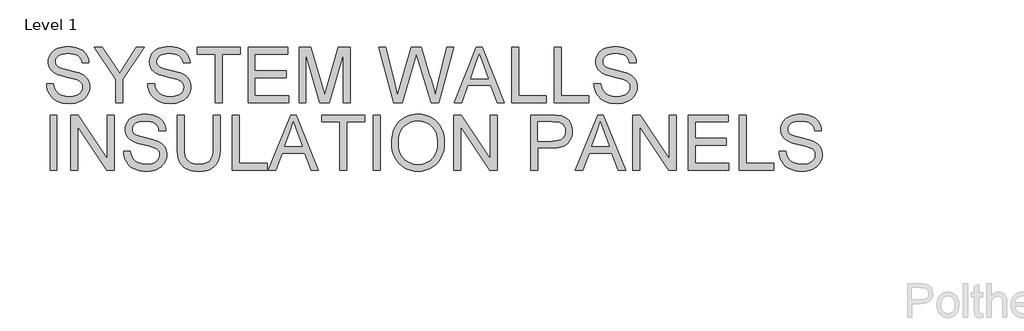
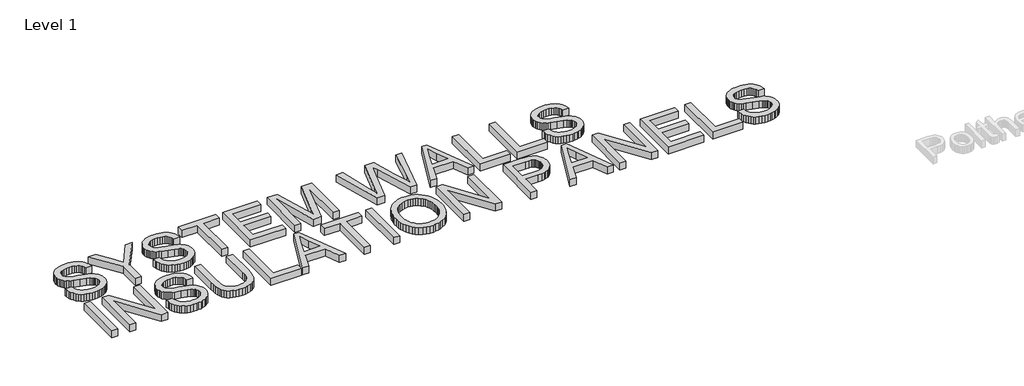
# One storey, part 8 of 27: 1 proxy.
"""IFC4 building model written with IfcOpenShell, lengths in millimetres."""

from ifc_helpers import new_model, si_unit, origin, origin_with_axes, place, context, project, spatial, polyline, outline, extrude, element, save

model = new_model("IFC4")

# Units and contexts
model_context = context("Model", 3, world=origin())
ifc_project = project(units=[si_unit("LENGTHUNIT", "METRE", prefix="MILLI")], contexts=[model_context])

# Site, building, storey
site = spatial("IfcSite", under=ifc_project)
building = spatial("IfcBuilding", under=site)
storey = spatial("IfcBuildingStorey", under=building, Name="Level 1", Elevation=0.0)

# Proxy
placement = place(None, origin())
element("IfcBuildingElementProxy", 1, Name="1000mm Arial", ObjectType="1000mm Arial", at=placement, inside=storey, context=model_context, shape_type="SweptSolid", body=[
    extrude(outline(polyline([(-28966.287185, -26863.7984456), (-28843.8629426, -26863.7984456), (-28838.2588055, -26899.4332852), (-28829.815239, -26931.7355313), (-28818.532243, -26960.7051839), (-28804.4098176, -26986.3422429), (-28786.7306331, -27009.1622891), (-28764.7773602, -27029.680903), (-28738.5499987, -27047.8980845), (-28708.0485486, -27063.8138338), (-28674.3938374, -27076.7332378), (-28638.7066926, -27085.9613836), (-28600.987114, -27091.498271), (-28561.2351016, -27093.3439001), (-28493.0290174, -27087.7547074), (-28462.1091251, -27080.7682165), (-28433.3113327, -27070.9871293), (-28407.3454976, -27058.7626383), (-28384.9214771, -27044.4459361), (-28366.0392713, -27028.0370228), (-28350.6988801, -27009.5358982), (-28338.8255816, -26989.7420861), (-28330.3446542, -26969.4551099), (-28325.2560977, -26948.6749696), (-28323.5599123, -26927.4016653), (-28328.6409965, -26886.424215), (-28343.8842494, -26851.0060687), (-28356.706515, -26835.2920683), (-28374.8489748, -26820.7885616), (-28398.3116286, -26807.4955484), (-28427.0944766, -26795.4130289), (-28491.7438019, -26776.1945748), (-28605.3508687, -26748.6670535), (-28722.3652508, -26717.7322169), (-28765.0687753, -26702.8252123), (-28797.2365221, -26688.2918168), (-28829.9273217, -26668.7894198), (-28858.1796447, -26647.1051454), (-28881.9934912, -26623.2389936), (-28901.3688611, -26597.1909645), (-28916.3804763, -26569.2300566), (-28927.1030586, -26539.6252685), (-28933.5366079, -26508.3766002), (-28935.6811244, -26475.4840516), (-28933.0284995, -26439.0272719), (-28925.0706248, -26403.7809858), (-28911.8075004, -26369.7451933), (-28893.2391263, -26336.9198944), (-28869.5747235, -26306.6426099), (-28841.0235131, -26280.2508604), (-28807.5854952, -26257.7446459), (-28769.2606698, -26239.1239664), (-28727.3417245, -26224.5307935), (-28683.1213469, -26214.1070985), (-28636.599537, -26207.8528815), (-28587.7762948, -26205.7681426), (-28534.5145761, -26207.9500199), (-28484.4808403, -26214.495652), (-28437.6750874, -26225.4050389), (-28394.0973176, -26240.6781804), (-28354.5545264, -26260.1805774), (-28319.8537096, -26283.7777306), (-28289.9948673, -26311.4696399), (-28264.9779994, -26343.2563054), (-28244.9973827, -26378.2111764), (-28230.2472939, -26415.4077022), (-28220.727733, -26454.8458828), (-28216.4387001, -26496.5257183), (-28338.8629426, -26496.5257183), (-28347.0524549, -26457.4611468), (-28361.3392683, -26423.4776596), (-28381.7233829, -26394.5752567), (-28408.2047986, -26370.753938), (-28441.2766795, -26352.1332586), (-28481.4321897, -26338.8327732), (-28528.6713292, -26330.852482), (-28582.9940979, -26328.192385), (-28639.050413, -26330.8225933), (-28686.9471045, -26338.7132183), (-28726.6841724, -26351.86426), (-28758.2616168, -26370.2757183), (-28782.3220453, -26392.4083237), (-28799.5080657, -26416.7228064), (-28809.8196779, -26443.2191665), (-28813.256882, -26471.8974039), (-28810.8209504, -26496.5705514), (-28803.5131556, -26518.9422666), (-28791.3334977, -26539.0125495), (-28774.2819766, -26556.7814001), (-28747.4418962, -26573.6087557), (-28705.1792304, -26590.6154437), (-28647.4939795, -26607.801464), (-28574.3861433, -26625.1668168), (-28439.4086338, -26657.9846435), (-28391.9154402, -26672.8243985), (-28357.7526206, -26686.6180479), (-28320.2198466, -26707.5252152), (-28287.9624336, -26731.0327022), (-28260.9803816, -26757.1405088), (-28239.2736907, -26785.848635), (-28222.5883065, -26817.0076371), (-28210.670175, -26850.4680715), (-28203.5192961, -26886.2299382), (-28201.1356698, -26924.2932372), (-28203.8779609, -26962.5881739), (-28212.1048341, -26999.7622832), (-28225.8162895, -27035.815565), (-28245.012327, -27070.7480194), (-28269.3566985, -27103.2071814), (-28298.5131556, -27131.8405857), (-28332.4816985, -27156.6482325), (-28371.262327, -27177.6301217), (-28413.7267417, -27194.3155058), (-28458.7466428, -27206.2336373), (-28506.3220305, -27213.3845162), (-28556.4529047, -27215.7681426), (-28619.0772684, -27213.1977117), (-28676.3963824, -27205.4864191), (-28728.4102467, -27192.6342647), (-28775.1188611, -27174.6412486), (-28816.8061688, -27151.477482), (-28853.7561125, -27123.1130763), (-28885.9686924, -27089.5480313), (-28913.4439085, -27050.7823471), (-28935.5765138, -27008.0713504), (-28951.7612617, -26962.6703679), (-28961.9981521, -26914.5793997), (-28966.287185, -26863.7984456)])), origin_with_axes(), (0.0, 0.0, 1.0), 150.0),
    extrude(outline(polyline([(-27742.0447607, -27200.4651122), (-27742.0447607, -26785.6095251), (-28124.6205183, -26221.0711729), (-27980.1981698, -26221.0711729), (-27775.9983592, -26522.5886918), (-27671.5073554, -26676.3363244), (-27566.7772418, -26511.5896388), (-27381.4671092, -26221.0711729), (-27237.0447607, -26221.0711729), (-27619.6205183, -26785.6095251), (-27619.6205183, -27200.4651122), (-27742.0447607, -27200.4651122)])), origin_with_axes(), (0.0, 0.0, 1.0), 150.0),
    extrude(outline(polyline([(-27175.8326395, -26863.7984456), (-27053.4083971, -26863.7984456), (-27047.80426, -26899.4332852), (-27039.3606935, -26931.7355313), (-27028.0776975, -26960.7051839), (-27013.9552721, -26986.3422429), (-26996.2760877, -27009.1622891), (-26974.3228147, -27029.680903), (-26948.0954532, -27047.8980845), (-26917.5940032, -27063.8138338), (-26883.939292, -27076.7332378), (-26848.2521471, -27085.9613836), (-26810.5325685, -27091.498271), (-26770.7805562, -27093.3439001), (-26702.5744719, -27087.7547074), (-26671.6545796, -27080.7682165), (-26642.8567873, -27070.9871293), (-26616.8909521, -27058.7626383), (-26594.4669317, -27044.4459361), (-26575.5847258, -27028.0370228), (-26560.2443346, -27009.5358982), (-26548.3710362, -26989.7420861), (-26539.8901088, -26969.4551099), (-26534.8015523, -26948.6749696), (-26533.1053668, -26927.4016653), (-26538.1864511, -26886.424215), (-26553.4297039, -26851.0060687), (-26566.2519695, -26835.2920683), (-26584.3944293, -26820.7885616), (-26607.8570832, -26807.4955484), (-26636.6399312, -26795.4130289), (-26701.2892565, -26776.1945748), (-26814.8963232, -26748.6670535), (-26931.9107053, -26717.7322169), (-26974.6142298, -26702.8252123), (-27006.7819766, -26688.2918168), (-27039.4727762, -26668.7894198), (-27067.7250993, -26647.1051454), (-27091.5389458, -26623.2389936), (-27110.9143157, -26597.1909645), (-27125.9259308, -26569.2300566), (-27136.6485131, -26539.6252685), (-27143.0820625, -26508.3766002), (-27145.2265789, -26475.4840516), (-27142.573954, -26439.0272719), (-27134.6160794, -26403.7809858), (-27121.352955, -26369.7451933), (-27102.7845808, -26336.9198944), (-27079.120178, -26306.6426099), (-27050.5689677, -26280.2508604), (-27017.1309498, -26257.7446459), (-26978.8061244, -26239.1239664), (-26936.8871791, -26224.5307935), (-26892.6668015, -26214.1070985), (-26846.1449916, -26207.8528815), (-26797.3217494, -26205.7681426), (-26744.0600306, -26207.9500199), (-26694.0262948, -26214.495652), (-26647.220542, -26225.4050389), (-26603.6427721, -26240.6781804), (-26564.0999809, -26260.1805774), (-26529.3991641, -26283.7777306), (-26499.5403218, -26311.4696399), (-26474.5234539, -26343.2563054), (-26454.5428372, -26378.2111764), (-26439.7927484, -26415.4077022), (-26430.2731876, -26454.8458828), (-26425.9841547, -26496.5257183), (-26548.4083971, -26496.5257183), (-26556.5979094, -26457.4611468), (-26570.8847229, -26423.4776596), (-26591.2688374, -26394.5752567), (-26617.7502532, -26370.753938), (-26650.8221341, -26352.1332586), (-26690.9776443, -26338.8327732), (-26738.2167837, -26330.852482), (-26792.5395524, -26328.192385), (-26848.5958675, -26330.8225933), (-26896.492559, -26338.7132183), (-26936.229627, -26351.86426), (-26967.8070713, -26370.2757183), (-26991.8674998, -26392.4083237), (-27009.0535202, -26416.7228064), (-27019.3651324, -26443.2191665), (-27022.8023365, -26471.8974039), (-27020.3664049, -26496.5705514), (-27013.0586102, -26518.9422666), (-27000.8789523, -26539.0125495), (-26983.8274312, -26556.7814001), (-26956.9873507, -26573.6087557), (-26914.724685, -26590.6154437), (-26857.039434, -26607.801464), (-26783.9315979, -26625.1668168), (-26648.9540884, -26657.9846435), (-26601.4608947, -26672.8243985), (-26567.2980751, -26686.6180479), (-26529.7653011, -26707.5252152), (-26497.5078881, -26731.0327022), (-26470.5258361, -26757.1405088), (-26448.8191452, -26785.848635), (-26432.1337611, -26817.0076371), (-26420.2156296, -26850.4680715), (-26413.0647507, -26886.2299382), (-26410.6811244, -26924.2932372), (-26413.4234155, -26962.5881739), (-26421.6502887, -26999.7622832), (-26435.361744, -27035.815565), (-26454.5577816, -27070.7480194), (-26478.902153, -27103.2071814), (-26508.0586102, -27131.8405857), (-26542.027153, -27156.6482325), (-26580.8077816, -27177.6301217), (-26623.2721962, -27194.3155058), (-26668.2920974, -27206.2336373), (-26715.8674851, -27213.3845162), (-26765.9983592, -27215.7681426), (-26828.622723, -27213.1977117), (-26885.941837, -27205.4864191), (-26937.9557012, -27192.6342647), (-26984.6643157, -27174.6412486), (-27026.3516233, -27151.477482), (-27063.3015671, -27123.1130763), (-27095.514147, -27089.5480313), (-27122.989363, -27050.7823471), (-27145.1219684, -27008.0713504), (-27161.3067162, -26962.6703679), (-27171.5436066, -26914.5793997), (-27175.8326395, -26863.7984456)])), origin_with_axes(), (0.0, 0.0, 1.0), 150.0),
    extrude(outline(polyline([(-25982.1962759, -27200.4651122), (-25982.1962759, -26343.4954153), (-26303.5599123, -26343.4954153), (-26303.5599123, -26221.0711729), (-25538.4083971, -26221.0711729), (-25538.4083971, -26343.4954153), (-25859.7720335, -26343.4954153), (-25859.7720335, -27200.4651122), (-25982.1962759, -27200.4651122)])), origin_with_axes(), (0.0, 0.0, 1.0), 150.0),
    extrude(outline(polyline([(-25400.6811244, -27200.4651122), (-25400.6811244, -26221.0711729), (-24696.7417304, -26221.0711729), (-24696.7417304, -26343.4954153), (-25278.256882, -26343.4954153), (-25278.256882, -26634.252991), (-24727.347791, -26634.252991), (-24727.347791, -26756.6772335), (-25278.256882, -26756.6772335), (-25278.256882, -27078.0408698), (-24681.4387001, -27078.0408698), (-24681.4387001, -27200.4651122), (-25400.6811244, -27200.4651122)])), origin_with_axes(), (0.0, 0.0, 1.0), 150.0),
    extrude(outline(polyline([(-24497.8023365, -27200.4651122), (-24497.8023365, -26221.0711729), (-24287.14656, -26221.0711729), (-24086.772507, -26911.3813054), (-24046.3629426, -27055.5645441), (-24002.6058403, -26899.425813), (-23805.5793251, -26221.0711729), (-23594.9235486, -26221.0711729), (-23594.9235486, -27200.4651122), (-23717.347791, -27200.4651122), (-23717.347791, -26343.4954153), (-23963.3918251, -27200.4651122), (-24129.33406, -27200.4651122), (-24375.3780941, -26343.4954153), (-24375.3780941, -27200.4651122), (-24497.8023365, -27200.4651122)])), origin_with_axes(), (0.0, 0.0, 1.0), 150.0),
    extrude(outline(polyline([(-22822.8378479, -27200.4651122), (-23089.9235486, -26221.0711729), (-22963.6735486, -26221.0711729), (-22808.7303668, -26864.754885), (-22760.9083971, -27063.4551691), (-22709.7388895, -26887.7094304), (-22515.5816926, -26221.0711729), (-22333.6190979, -26221.0711729), (-22192.5442873, -26704.3121766), (-22160.3391795, -26793.9185924), (-22132.1092731, -26883.644563), (-22107.8545678, -26973.4900886), (-22087.5750638, -27063.4551691), (-22041.1877532, -26870.4935213), (-21884.8099123, -26221.0711729), (-21758.5599123, -26221.0711729), (-22025.8847229, -27200.4651122), (-22156.67781, -27200.4651122), (-22391.4836812, -26444.877991), (-22424.2417304, -26339.4305479), (-22461.0646471, -26466.3978774), (-22675.0679615, -27200.4651122), (-22822.8378479, -27200.4651122)])), origin_with_axes(), (0.0, 0.0, 1.0), 150.0),
    extrude(outline(polyline([(-21750.1910676, -27200.4651122), (-21359.2464653, -26221.0711729), (-21254.9945713, -26221.0711729), (-20864.0499691, -27200.4651122), (-20993.4083971, -27200.4651122), (-21105.550916, -26894.4045062), (-21508.9292304, -26894.4045062), (-21620.8326395, -27200.4651122), (-21750.1910676, -27200.4651122)]), holes=[polyline([(-21463.9765789, -26771.9802638), (-21150.2644577, -26771.9802638), (-21238.4959918, -26531.1966463), (-21307.1205183, -26343.4954153), (-21368.0935297, -26510.1549797), (-21463.9765789, -26771.9802638)])]), origin_with_axes(), (0.0, 0.0, 1.0), 150.0),
    extrude(outline(polyline([(-20733.256882, -27200.4651122), (-20733.256882, -26221.0711729), (-20610.8326395, -26221.0711729), (-20610.8326395, -27078.0408698), (-20121.1356698, -27078.0408698), (-20121.1356698, -27200.4651122), (-20733.256882, -27200.4651122)])), origin_with_axes(), (0.0, 0.0, 1.0), 150.0),
    extrude(outline(polyline([(-19983.4083971, -27200.4651122), (-19983.4083971, -26221.0711729), (-19860.9841547, -26221.0711729), (-19860.9841547, -27078.0408698), (-19371.287185, -27078.0408698), (-19371.287185, -27200.4651122), (-19983.4083971, -27200.4651122)])), origin_with_axes(), (0.0, 0.0, 1.0), 150.0),
    extrude(outline(polyline([(-19279.4690032, -26863.7984456), (-19157.0447607, -26863.7984456), (-19151.4406237, -26899.4332852), (-19142.9970571, -26931.7355313), (-19131.7140612, -26960.7051839), (-19117.5916357, -26986.3422429), (-19099.9124513, -27009.1622891), (-19077.9591784, -27029.680903), (-19051.7318168, -27047.8980845), (-19021.2303668, -27063.8138338), (-18987.5756556, -27076.7332378), (-18951.8885107, -27085.9613836), (-18914.1689321, -27091.498271), (-18874.4169198, -27093.3439001), (-18806.2108356, -27087.7547074), (-18775.2909433, -27080.7682165), (-18746.4931509, -27070.9871293), (-18720.5273158, -27058.7626383), (-18698.1032953, -27044.4459361), (-18679.2210895, -27028.0370228), (-18663.8806982, -27009.5358982), (-18652.0073998, -26989.7420861), (-18643.5264724, -26969.4551099), (-18638.4379159, -26948.6749696), (-18636.7417304, -26927.4016653), (-18641.8228147, -26886.424215), (-18657.0660676, -26851.0060687), (-18669.8883332, -26835.2920683), (-18688.0307929, -26820.7885616), (-18711.4934468, -26807.4955484), (-18740.2762948, -26795.4130289), (-18804.9256201, -26776.1945748), (-18918.5326869, -26748.6670535), (-19035.547069, -26717.7322169), (-19078.2505935, -26702.8252123), (-19110.4183403, -26688.2918168), (-19143.1091399, -26668.7894198), (-19171.3614629, -26647.1051454), (-19195.1753094, -26623.2389936), (-19214.5506793, -26597.1909645), (-19229.5622945, -26569.2300566), (-19240.2848767, -26539.6252685), (-19246.7184261, -26508.3766002), (-19248.8629426, -26475.4840516), (-19246.2103177, -26439.0272719), (-19238.252443, -26403.7809858), (-19224.9893186, -26369.7451933), (-19206.4209445, -26336.9198944), (-19182.7565416, -26306.6426099), (-19154.2053313, -26280.2508604), (-19120.7673134, -26257.7446459), (-19082.442488, -26239.1239664), (-19040.5235427, -26224.5307935), (-18996.3031651, -26214.1070985), (-18949.7813552, -26207.8528815), (-18900.958113, -26205.7681426), (-18847.6963943, -26207.9500199), (-18797.6626585, -26214.495652), (-18750.8569056, -26225.4050389), (-18707.2791357, -26240.6781804), (-18667.7363445, -26260.1805774), (-18633.0355278, -26283.7777306), (-18603.1766855, -26311.4696399), (-18578.1598176, -26343.2563054), (-18558.1792008, -26378.2111764), (-18543.4291121, -26415.4077022), (-18533.9095512, -26454.8458828), (-18529.6205183, -26496.5257183), (-18652.0447607, -26496.5257183), (-18660.2342731, -26457.4611468), (-18674.5210865, -26423.4776596), (-18694.9052011, -26394.5752567), (-18721.3866168, -26370.753938), (-18754.4584977, -26352.1332586), (-18794.6140079, -26338.8327732), (-18841.8531473, -26330.852482), (-18896.175916, -26328.192385), (-18952.2322311, -26330.8225933), (-19000.1289227, -26338.7132183), (-19039.8659906, -26351.86426), (-19071.443435, -26370.2757183), (-19095.5038635, -26392.4083237), (-19112.6898838, -26416.7228064), (-19123.0014961, -26443.2191665), (-19126.4387001, -26471.8974039), (-19124.0027686, -26496.5705514), (-19116.6949738, -26518.9422666), (-19104.5153159, -26539.0125495), (-19087.4637948, -26556.7814001), (-19060.6237143, -26573.6087557), (-19018.3610486, -26590.6154437), (-18960.6757977, -26607.801464), (-18887.5679615, -26625.1668168), (-18752.590452, -26657.9846435), (-18705.0972584, -26672.8243985), (-18670.9344388, -26686.6180479), (-18633.4016647, -26707.5252152), (-18601.1442517, -26731.0327022), (-18574.1621998, -26757.1405088), (-18552.4555088, -26785.848635), (-18535.7701247, -26817.0076371), (-18523.8519932, -26850.4680715), (-18516.7011143, -26886.2299382), (-18514.317488, -26924.2932372), (-18517.0597791, -26962.5881739), (-18525.2866523, -26999.7622832), (-18538.9981077, -27035.815565), (-18558.1941452, -27070.7480194), (-18582.5385167, -27103.2071814), (-18611.6949738, -27131.8405857), (-18645.6635167, -27156.6482325), (-18684.4441452, -27177.6301217), (-18726.9085599, -27194.3155058), (-18771.928461, -27206.2336373), (-18819.5038487, -27213.3845162), (-18869.6347229, -27215.7681426), (-18932.2590866, -27213.1977117), (-18989.5782006, -27205.4864191), (-19041.5920648, -27192.6342647), (-19088.3006793, -27174.6412486), (-19129.9879869, -27151.477482), (-19166.9379307, -27123.1130763), (-19199.1505106, -27089.5480313), (-19226.6257266, -27050.7823471), (-19248.758332, -27008.0713504), (-19264.9430799, -26962.6703679), (-19275.1799703, -26914.5793997), (-19279.4690032, -26863.7984456)])), origin_with_axes(), (0.0, 0.0, 1.0), 150.0),
    extrude(outline(polyline([(-28905.0750638, -28397.4348092), (-28905.0750638, -27418.0408698), (-28782.6508213, -27418.0408698), (-28782.6508213, -28397.4348092), (-28905.0750638, -28397.4348092)])), origin_with_axes(), (0.0, 0.0, 1.0), 150.0),
    extrude(outline(polyline([(-28537.8023365, -28397.4348092), (-28537.8023365, -27418.0408698), (-28406.7701395, -27418.0408698), (-27895.0750638, -28193.9523282), (-27895.0750638, -27418.0408698), (-27772.6508213, -27418.0408698), (-27772.6508213, -28397.4348092), (-27903.6830183, -28397.4348092), (-28415.3780941, -27621.284241), (-28415.3780941, -28397.4348092), (-28537.8023365, -28397.4348092)])), origin_with_axes(), (0.0, 0.0, 1.0), 150.0),
    extrude(outline(polyline([(-27604.317488, -28060.7681426), (-27481.8932456, -28060.7681426), (-27476.2891085, -28096.4029822), (-27467.845542, -28128.7052283), (-27456.562546, -28157.6748808), (-27442.4401206, -28183.3119399), (-27424.7609362, -28206.1319861), (-27402.8076632, -28226.6505999), (-27376.5803017, -28244.8677815), (-27346.0788516, -28260.7835308), (-27312.4241405, -28273.7029348), (-27276.7369956, -28282.9310805), (-27239.017417, -28288.467968), (-27199.2654047, -28290.3135971), (-27131.0593204, -28284.7244044), (-27100.1394281, -28277.7379135), (-27071.3416357, -28267.9568263), (-27045.3758006, -28255.7323353), (-27022.9517802, -28241.4156331), (-27004.0695743, -28225.0067197), (-26988.7291831, -28206.5055952), (-26976.8558847, -28186.7117831), (-26968.3749572, -28166.4248069), (-26963.2864008, -28145.6446666), (-26961.5902153, -28124.3713622), (-26966.6712996, -28083.393912), (-26981.9145524, -28047.9757657), (-26994.736818, -28032.2617653), (-27012.8792778, -28017.7582586), (-27036.3419317, -28004.4652454), (-27065.1247797, -27992.3827259), (-27129.774105, -27973.1642718), (-27243.3811717, -27945.6367505), (-27360.3955538, -27914.7019139), (-27403.0990783, -27899.7949092), (-27435.2668251, -27885.2615138), (-27467.9576247, -27865.7591167), (-27496.2099478, -27844.0748424), (-27520.0237942, -27820.2086906), (-27539.3991641, -27794.1606615), (-27554.4107793, -27766.1997536), (-27565.1333616, -27736.5949655), (-27571.566911, -27705.3462971), (-27573.7114274, -27672.4537486), (-27571.0588025, -27635.9969689), (-27563.1009279, -27600.7506828), (-27549.8378035, -27566.7148903), (-27531.2694293, -27533.8895914), (-27507.6050265, -27503.6123069), (-27479.0538161, -27477.2205573), (-27445.6157983, -27454.7143428), (-27407.2909729, -27436.0936634), (-27365.3720275, -27421.5004904), (-27321.1516499, -27411.0767955), (-27274.62984, -27404.8225785), (-27225.8065979, -27402.7378395), (-27172.5448791, -27404.9197169), (-27122.5111433, -27411.465349), (-27075.7053905, -27422.3747358), (-27032.1276206, -27437.6478774), (-26992.5848294, -27457.1502744), (-26957.8840126, -27480.7474276), (-26928.0251703, -27508.4393369), (-26903.0083024, -27540.2260024), (-26883.0276857, -27575.1808734), (-26868.2775969, -27612.3773992), (-26858.7580361, -27651.8155798), (-26854.4690032, -27693.4954153), (-26976.8932456, -27693.4954153), (-26985.0827579, -27654.4308438), (-26999.3695713, -27620.4473566), (-27019.7536859, -27591.5449536), (-27046.2351016, -27567.723635), (-27079.3069826, -27549.1029555), (-27119.4624927, -27535.8024702), (-27166.7016322, -27527.822179), (-27221.0244009, -27525.1620819), (-27277.080716, -27527.7922903), (-27324.9774075, -27535.6829153), (-27364.7144755, -27548.8339569), (-27396.2919198, -27567.2454153), (-27420.3523483, -27589.3780206), (-27437.5383687, -27613.6925033), (-27447.8499809, -27640.1888634), (-27451.287185, -27668.8671009), (-27448.8512534, -27693.5402484), (-27441.5434587, -27715.9119636), (-27429.3638007, -27735.9822465), (-27412.3122797, -27753.7510971), (-27385.4721992, -27770.5784527), (-27343.2095335, -27787.5851407), (-27285.5242825, -27804.771161), (-27212.4164463, -27822.1365138), (-27077.4389369, -27854.9543405), (-27029.9457432, -27869.7940954), (-26995.7829236, -27883.5877448), (-26958.2501496, -27904.4949122), (-26925.9927366, -27928.0023992), (-26899.0106846, -27954.1102058), (-26877.3039937, -27982.8183319), (-26860.6186096, -28013.9773341), (-26848.7004781, -28047.4377685), (-26841.5495992, -28083.1996352), (-26839.1659729, -28121.2629342), (-26841.9082639, -28159.5578709), (-26850.1351372, -28196.7319801), (-26863.8465925, -28232.785262), (-26883.0426301, -28267.7177164), (-26907.3870015, -28300.1768783), (-26936.5434587, -28328.8102827), (-26970.5120015, -28353.6179295), (-27009.2926301, -28374.5998187), (-27051.7570447, -28391.2852028), (-27096.7769459, -28403.2033343), (-27144.3523335, -28410.3542132), (-27194.4832077, -28412.7378395), (-27257.1075715, -28410.1674086), (-27314.4266855, -28402.456116), (-27366.4405497, -28389.6039617), (-27413.1491641, -28371.6109456), (-27454.8364718, -28348.447179), (-27491.7864156, -28320.0827732), (-27523.9989955, -28286.5177283), (-27551.4742115, -28247.7520441), (-27573.6068168, -28205.0410474), (-27589.7915647, -28159.6400649), (-27600.0284551, -28111.5490966), (-27604.317488, -28060.7681426)])), origin_with_axes(), (0.0, 0.0, 1.0), 150.0),
    extrude(outline(polyline([(-26012.8023365, -27418.0408698), (-25890.3780941, -27418.0408698), (-25890.3780941, -27983.0574418), (-25892.4553609, -28053.019489), (-25898.6871613, -28115.3748542), (-25909.0734954, -28170.1235373), (-25923.614363, -28217.2655384), (-25943.565091, -28258.5867091), (-25970.181006, -28295.8729011), (-26003.462108, -28329.1241144), (-26043.4083971, -28358.340349), (-26090.0647063, -28382.1392511), (-26143.4758687, -28399.1384669), (-26203.6418843, -28409.3379964), (-26270.5627532, -28412.7378395), (-26335.8322696, -28409.7788551), (-26394.8699856, -28400.901902), (-26447.6759012, -28386.1069801), (-26494.2500164, -28365.3940895), (-26534.5998034, -28339.0695896), (-26568.7327342, -28307.43984), (-26596.648809, -28270.5048406), (-26618.3480278, -28228.2645914), (-26634.6149697, -28179.269489), (-26646.2342139, -28122.06993), (-26653.2057604, -28056.6659142), (-26655.5296092, -27983.0574418), (-26655.5296092, -27418.0408698), (-26533.1053668, -27418.0408698), (-26533.1053668, -27978.7534645), (-26531.5959859, -28037.9406242), (-26527.0678431, -28088.7738836), (-26519.5209385, -28131.2532426), (-26508.9552721, -28165.3787013), (-26494.7132918, -28193.6160799), (-26476.1374454, -28218.4311989), (-26453.227733, -28239.8240582), (-26425.9841547, -28257.7946577), (-26394.9297631, -28272.0216937), (-26360.5876111, -28282.1838622), (-26322.9576987, -28288.2811634), (-26282.0400259, -28290.3135971), (-26214.5662155, -28286.2935628), (-26157.5235723, -28274.2334598), (-26110.9120962, -28254.1332881), (-26091.5180458, -28241.0681766), (-26074.7317873, -28225.9930479), (-26060.2170722, -28208.0598092), (-26047.6376525, -28186.4203679), (-26028.2846992, -28132.0228774), (-26016.6729272, -28062.8005763), (-26012.8023365, -27978.7534645), (-26012.8023365, -27418.0408698)])), origin_with_axes(), (0.0, 0.0, 1.0), 150.0),
    extrude(outline(polyline([(-25676.1356698, -28397.4348092), (-25676.1356698, -27418.0408698), (-25553.7114274, -27418.0408698), (-25553.7114274, -28275.0105668), (-25064.0144577, -28275.0105668), (-25064.0144577, -28397.4348092), (-25676.1356698, -28397.4348092)])), origin_with_axes(), (0.0, 0.0, 1.0), 150.0),
    extrude(outline(polyline([(-25040.3425827, -28397.4348092), (-24649.3979804, -27418.0408698), (-24545.1460865, -27418.0408698), (-24154.2014842, -28397.4348092), (-24283.5599123, -28397.4348092), (-24395.7024312, -28091.3742032), (-24799.0807456, -28091.3742032), (-24910.9841547, -28397.4348092), (-25040.3425827, -28397.4348092)]), holes=[polyline([(-24754.1280941, -27968.9499607), (-24440.4159729, -27968.9499607), (-24528.647507, -27728.1663433), (-24597.2720335, -27540.4651122), (-24658.2450448, -27707.1246766), (-24754.1280941, -27968.9499607)])]), origin_with_axes(), (0.0, 0.0, 1.0), 150.0),
    extrude(outline(polyline([(-23778.5599123, -28397.4348092), (-23778.5599123, -27540.4651122), (-24099.9235486, -27540.4651122), (-24099.9235486, -27418.0408698), (-23334.7720335, -27418.0408698), (-23334.7720335, -27540.4651122), (-23656.1356698, -27540.4651122), (-23656.1356698, -28397.4348092), (-23778.5599123, -28397.4348092)])), origin_with_axes(), (0.0, 0.0, 1.0), 150.0),
    extrude(outline(polyline([(-23181.7417304, -28397.4348092), (-23181.7417304, -27418.0408698), (-23059.317488, -27418.0408698), (-23059.317488, -28397.4348092), (-23181.7417304, -28397.4348092)])), origin_with_axes(), (0.0, 0.0, 1.0), 150.0),
    extrude(outline(polyline([(-22860.3780941, -27920.6497713), (-22858.3381882, -27861.5634861), (-22852.2184705, -27805.7724335), (-22842.018941, -27753.2766135), (-22827.7395998, -27704.0760261), (-22809.3804467, -27658.1706713), (-22786.9414819, -27615.560549), (-22760.4227052, -27576.2456594), (-22729.8241168, -27540.2260024), (-22696.0012815, -27508.0022142), (-22659.8097643, -27480.0749311), (-22621.2495651, -27456.4441531), (-22580.320684, -27437.1098802), (-22537.023121, -27422.0721124), (-22491.356876, -27411.3308497), (-22443.3219491, -27404.8860921), (-22392.9183403, -27402.7378395), (-22327.0286327, -27406.7728182), (-22264.4565742, -27418.8777543), (-22205.2021649, -27439.0526478), (-22149.2654047, -27467.2974986), (-22098.215452, -27502.760478), (-22053.6214653, -27544.5897571), (-22015.4834445, -27592.785336), (-21983.8013895, -27647.3472145), (-21958.9040766, -27707.0350104), (-21941.1202816, -27770.6083414), (-21930.4500046, -27838.0672074), (-21926.8932456, -27909.4116085), (-21930.6368092, -27981.6975045), (-21941.8674998, -28050.0679768), (-21960.5853177, -28114.5230254), (-21986.7902626, -28175.0626501), (-22019.8621436, -28230.087804), (-22059.1807693, -28277.9994399), (-22104.7461398, -28318.7975578), (-22156.5582551, -28352.4821577), (-22212.5772092, -28378.8440185), (-22270.7630964, -28397.6739191), (-22331.1159166, -28408.9718594), (-22393.6356698, -28412.7378395), (-22460.6760936, -28408.5758337), (-22524.0700922, -28396.0898163), (-22583.8176656, -28375.2797873), (-22639.9188138, -28346.1457467), (-22690.908989, -28309.8159941), (-22735.3236433, -28267.4188291), (-22773.1627768, -28218.9542517), (-22804.4263895, -28164.4222619), (-22828.9052603, -28106.0122092), (-22846.3901679, -28045.9134432), (-22856.8811125, -27984.1259639), (-22860.3780941, -27920.6497713)]), holes=[polyline([(-22737.9538516, -27921.8453206), (-22736.4239222, -27963.5662531), (-22731.834134, -28003.0081698), (-22724.1844869, -28040.1710708), (-22713.4749809, -28075.054956), (-22699.7056161, -28107.6598255), (-22682.8763925, -28137.9856792), (-22662.98731, -28166.0325173), (-22640.0383687, -28191.8003395), (-22614.7805229, -28214.8893843), (-22587.964727, -28234.8998897), (-22559.590981, -28251.8318559), (-22529.6592849, -28265.6852827), (-22498.1696387, -28276.4601702), (-22465.1220423, -28284.1565185), (-22430.5164959, -28288.7743274), (-22394.3529994, -28290.3135971), (-22357.5282147, -28288.7593831), (-22322.3734628, -28284.096741), (-22288.8887438, -28276.325671), (-22257.0740576, -28265.4461729), (-22226.9294043, -28251.4582467), (-22198.4547838, -28234.3618926), (-22171.6501962, -28214.1571104), (-22146.5156414, -28190.8439001), (-22123.7348242, -28164.67258), (-22103.9914493, -28135.8934681), (-22087.2855167, -28104.5065644), (-22073.6170264, -28070.5118689), (-22062.9859783, -28033.9093816), (-22055.3923726, -27994.6991025), (-22050.8362092, -27952.8810317), (-22049.317488, -27908.4551691), (-22051.9178076, -27852.4287427), (-22059.7187664, -27800.0786302), (-22072.7203644, -27751.4048317), (-22090.9226016, -27706.4073471), (-22114.1237291, -27665.6764788), (-22142.121998, -27629.8025294), (-22174.9174081, -27598.7854987), (-22212.5099596, -27572.6253869), (-22253.7339919, -27551.860191), (-22297.4238445, -27537.0279082), (-22343.5795175, -27528.1285385), (-22392.2010107, -27525.1620819), (-22460.5117056, -27530.8783018), (-22523.8907598, -27548.0269612), (-22582.3381734, -27576.6080603), (-22635.8539463, -27616.621599), (-22659.7836117, -27641.397489), (-22680.5226549, -27669.9954005), (-22698.0710761, -27702.4153335), (-22712.4288753, -27738.6572879), (-22723.5960525, -27778.7212639), (-22731.5726076, -27822.6072613), (-22736.3585406, -27870.3152802), (-22737.9538516, -27921.8453206)])]), origin_with_axes(), (0.0, 0.0, 1.0), 150.0),
    extrude(outline(polyline([(-21758.5599123, -28397.4348092), (-21758.5599123, -27418.0408698), (-21627.5277153, -27418.0408698), (-21115.8326395, -28193.9523282), (-21115.8326395, -27418.0408698), (-20993.4083971, -27418.0408698), (-20993.4083971, -28397.4348092), (-21124.4405941, -28397.4348092), (-21636.1356698, -27621.284241), (-21636.1356698, -28397.4348092), (-21758.5599123, -28397.4348092)])), origin_with_axes(), (0.0, 0.0, 1.0), 150.0),
    extrude(outline(polyline([(-20396.5902153, -28397.4348092), (-20396.5902153, -27418.0408698), (-20033.6214653, -27418.0408698), (-19949.0961338, -27420.3721908), (-19887.286238, -27427.3661539), (-19853.2205568, -27434.7113096), (-19822.0391381, -27444.7912841), (-19793.741982, -27457.6060776), (-19768.3290884, -27473.1556899), (-19745.5314588, -27491.761425), (-19725.0800945, -27513.7445867), (-19706.9749957, -27539.105175), (-19691.2161623, -27567.8431899), (-19678.4536741, -27599.0096642), (-19669.3376111, -27631.6556307), (-19663.8679733, -27665.7810894), (-19662.0447607, -27701.3860403), (-19666.9689292, -27761.5072228), (-19681.7414345, -27816.8163196), (-19706.3622767, -27867.3133308), (-19740.8314558, -27912.9982562), (-19762.5101261, -27933.2852324), (-19788.1527893, -27950.8672784), (-19817.7594454, -27965.7443943), (-19851.3300945, -27977.9165801), (-19888.8647366, -27987.3838356), (-19930.3633717, -27994.146161), (-20025.2526206, -27999.5560213), (-20274.1659729, -27999.5560213), (-20274.1659729, -28397.4348092), (-20396.5902153, -28397.4348092)]), holes=[polyline([(-20274.1659729, -27877.1317789), (-20018.0793251, -27877.1317789), (-19959.1985249, -27874.3222382), (-19909.5234539, -27865.893616), (-19869.0541121, -27851.8459124), (-19837.7904994, -27832.1791274), (-19814.4623448, -27807.4163137), (-19797.7993772, -27778.0805242), (-19787.8015967, -27744.1717588), (-19784.4690032, -27705.6900176), (-19786.4341872, -27677.1163907), (-19792.3297394, -27650.6947524), (-19802.1556598, -27626.4251028), (-19815.9119482, -27604.3074418), (-19832.8663309, -27585.059099), (-19852.2865339, -27569.3974039), (-19874.1725573, -27557.3223566), (-19898.5244009, -27548.8339569), (-19945.748596, -27542.5573234), (-20020.9486433, -27540.4651122), (-20274.1659729, -27540.4651122), (-20274.1659729, -27877.1317789)])]), origin_with_axes(), (0.0, 0.0, 1.0), 150.0),
    extrude(outline(polyline([(-19607.7668251, -28397.4348092), (-19216.8222229, -27418.0408698), (-19112.5703289, -27418.0408698), (-18721.6257266, -28397.4348092), (-18850.9841547, -28397.4348092), (-18963.1266736, -28091.3742032), (-19366.504988, -28091.3742032), (-19478.4083971, -28397.4348092), (-19607.7668251, -28397.4348092)]), holes=[polyline([(-19321.5523365, -27968.9499607), (-19007.8402153, -27968.9499607), (-19096.0717494, -27728.1663433), (-19164.6962759, -27540.4651122), (-19225.6692873, -27707.1246766), (-19321.5523365, -27968.9499607)])]), origin_with_axes(), (0.0, 0.0, 1.0), 150.0),
    extrude(outline(polyline([(-18590.8326395, -28397.4348092), (-18590.8326395, -27418.0408698), (-18459.8004426, -27418.0408698), (-17948.1053668, -28193.9523282), (-17948.1053668, -27418.0408698), (-17825.6811244, -27418.0408698), (-17825.6811244, -28397.4348092), (-17956.7133213, -28397.4348092), (-18468.4083971, -27621.284241), (-18468.4083971, -28397.4348092), (-18590.8326395, -28397.4348092)])), origin_with_axes(), (0.0, 0.0, 1.0), 150.0),
    extrude(outline(polyline([(-17611.4387001, -28397.4348092), (-17611.4387001, -27418.0408698), (-16907.4993062, -27418.0408698), (-16907.4993062, -27540.4651122), (-17489.0144577, -27540.4651122), (-17489.0144577, -27831.222688), (-16938.1053668, -27831.222688), (-16938.1053668, -27953.6469304), (-17489.0144577, -27953.6469304), (-17489.0144577, -28275.0105668), (-16892.1962759, -28275.0105668), (-16892.1962759, -28397.4348092), (-17611.4387001, -28397.4348092)])), origin_with_axes(), (0.0, 0.0, 1.0), 150.0),
    extrude(outline(polyline([(-16708.5599123, -28397.4348092), (-16708.5599123, -27418.0408698), (-16586.1356698, -27418.0408698), (-16586.1356698, -28275.0105668), (-16096.4387001, -28275.0105668), (-16096.4387001, -28397.4348092), (-16708.5599123, -28397.4348092)])), origin_with_axes(), (0.0, 0.0, 1.0), 150.0),
    extrude(outline(polyline([(-16004.6205183, -28060.7681426), (-15882.1962759, -28060.7681426), (-15876.5921388, -28096.4029822), (-15868.1485723, -28128.7052283), (-15856.8655763, -28157.6748808), (-15842.7431509, -28183.3119399), (-15825.0639665, -28206.1319861), (-15803.1106935, -28226.6505999), (-15776.883332, -28244.8677815), (-15746.381882, -28260.7835308), (-15712.7271708, -28273.7029348), (-15677.0400259, -28282.9310805), (-15639.3204473, -28288.467968), (-15599.568435, -28290.3135971), (-15531.3623507, -28284.7244044), (-15500.4424584, -28277.7379135), (-15471.644666, -28267.9568263), (-15445.6788309, -28255.7323353), (-15423.2548105, -28241.4156331), (-15404.3726046, -28225.0067197), (-15389.0322134, -28206.5055952), (-15377.158915, -28186.7117831), (-15368.6779875, -28166.4248069), (-15363.5894311, -28145.6446666), (-15361.8932456, -28124.3713622), (-15366.9743299, -28083.393912), (-15382.2175827, -28047.9757657), (-15395.0398483, -28032.2617653), (-15413.1823081, -28017.7582586), (-15436.644962, -28004.4652454), (-15465.42781, -27992.3827259), (-15530.0771353, -27973.1642718), (-15643.684202, -27945.6367505), (-15760.6985841, -27914.7019139), (-15803.4021086, -27899.7949092), (-15835.5698554, -27885.2615138), (-15868.260655, -27865.7591167), (-15896.5129781, -27844.0748424), (-15920.3268245, -27820.2086906), (-15939.7021945, -27794.1606615), (-15954.7138096, -27766.1997536), (-15965.4363919, -27736.5949655), (-15971.8699413, -27705.3462971), (-15974.0144577, -27672.4537486), (-15971.3618328, -27635.9969689), (-15963.4039582, -27600.7506828), (-15950.1408338, -27566.7148903), (-15931.5724596, -27533.8895914), (-15907.9080568, -27503.6123069), (-15879.3568464, -27477.2205573), (-15845.9188286, -27454.7143428), (-15807.5940032, -27436.0936634), (-15765.6750579, -27421.5004904), (-15721.4546802, -27411.0767955), (-15674.9328704, -27404.8225785), (-15626.1096282, -27402.7378395), (-15572.8479094, -27404.9197169), (-15522.8141736, -27411.465349), (-15476.0084208, -27422.3747358), (-15432.4306509, -27437.6478774), (-15392.8878597, -27457.1502744), (-15358.1870429, -27480.7474276), (-15328.3282006, -27508.4393369), (-15303.3113327, -27540.2260024), (-15283.330716, -27575.1808734), (-15268.5806272, -27612.3773992), (-15259.0610664, -27651.8155798), (-15254.7720335, -27693.4954153), (-15377.1962759, -27693.4954153), (-15385.3857882, -27654.4308438), (-15399.6726016, -27620.4473566), (-15420.0567162, -27591.5449536), (-15446.538132, -27567.723635), (-15479.6100129, -27549.1029555), (-15519.7655231, -27535.8024702), (-15567.0046625, -27527.822179), (-15621.3274312, -27525.1620819), (-15677.3837463, -27527.7922903), (-15725.2804378, -27535.6829153), (-15765.0175058, -27548.8339569), (-15796.5949501, -27567.2454153), (-15820.6553786, -27589.3780206), (-15837.841399, -27613.6925033), (-15848.1530112, -27640.1888634), (-15851.5902153, -27668.8671009), (-15849.1542837, -27693.5402484), (-15841.846489, -27715.9119636), (-15829.6668311, -27735.9822465), (-15812.61531, -27753.7510971), (-15785.7752295, -27770.5784527), (-15743.5125638, -27787.5851407), (-15685.8273128, -27804.771161), (-15612.7194766, -27822.1365138), (-15477.7419672, -27854.9543405), (-15430.2487735, -27869.7940954), (-15396.0859539, -27883.5877448), (-15358.5531799, -27904.4949122), (-15326.2957669, -27928.0023992), (-15299.3137149, -27954.1102058), (-15277.607024, -27982.8183319), (-15260.9216399, -28013.9773341), (-15249.0035084, -28047.4377685), (-15241.8526295, -28083.1996352), (-15239.4690032, -28121.2629342), (-15242.2112942, -28159.5578709), (-15250.4381675, -28196.7319801), (-15264.1496228, -28232.785262), (-15283.3456604, -28267.7177164), (-15307.6900318, -28300.1768783), (-15336.846489, -28328.8102827), (-15370.8150318, -28353.6179295), (-15409.5956604, -28374.5998187), (-15452.060075, -28391.2852028), (-15497.0799762, -28403.2033343), (-15544.6553638, -28410.3542132), (-15594.786238, -28412.7378395), (-15657.4106018, -28410.1674086), (-15714.7297158, -28402.456116), (-15766.74358, -28389.6039617), (-15813.4521945, -28371.6109456), (-15855.1395021, -28348.447179), (-15892.0894459, -28320.0827732), (-15924.3020258, -28286.5177283), (-15951.7772418, -28247.7520441), (-15973.9098472, -28205.0410474), (-15990.094595, -28159.6400649), (-16000.3314854, -28111.5490966), (-16004.6205183, -28060.7681426)])), origin_with_axes(), (0.0, 0.0, 1.0), 150.0),
])

save(model, "model.ifc")
